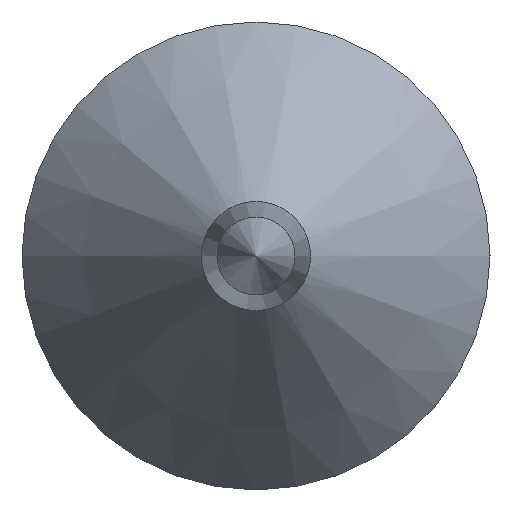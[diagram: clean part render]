
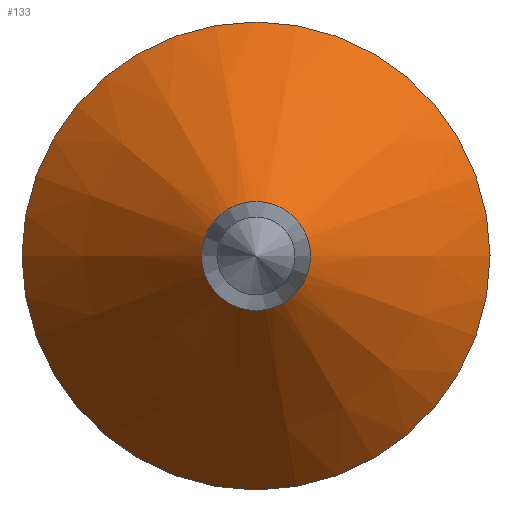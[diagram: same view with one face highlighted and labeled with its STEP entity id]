
A CAD part, left-side view. The second image highlights one B-rep face of the part: STEP entity #133.
In plain terms, the highlighted conical face has half-angle 37.476 degrees and reference radius 0.7 mm.
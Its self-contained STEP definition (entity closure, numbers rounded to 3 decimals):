
#66 = CONICAL_SURFACE('',#67,0.5,0.067);
#67 = AXIS2_PLACEMENT_3D('',#68,#69,#70);
#68 = CARTESIAN_POINT('',(0.,0.,0.));
#69 = DIRECTION('',(1.,0.,0.));
#70 = DIRECTION('',(-0.,1.,0.));
#84 = VERTEX_POINT('',#85);
#85 = CARTESIAN_POINT('',(3.,0.7,0.));
#106 = EDGE_CURVE('',#84,#84,#107,.T.);
#107 = SURFACE_CURVE('',#108,(#113,#120),.PCURVE_S1.);
#108 = CIRCLE('',#109,0.7);
#109 = AXIS2_PLACEMENT_3D('',#110,#111,#112);
#110 = CARTESIAN_POINT('',(3.,0.,0.));
#111 = DIRECTION('',(1.,0.,0.));
#112 = DIRECTION('',(-0.,1.,0.));
#113 = PCURVE('',#66,#114);
#114 = DEFINITIONAL_REPRESENTATION('',(#115),#119);
#115 = LINE('',#116,#117);
#116 = CARTESIAN_POINT('',(0.,3.));
#117 = VECTOR('',#118,1.);
#118 = DIRECTION('',(1.,0.));
#119 = ( GEOMETRIC_REPRESENTATION_CONTEXT(2) 
PARAMETRIC_REPRESENTATION_CONTEXT() REPRESENTATION_CONTEXT('2D SPACE',''
  ) );
#120 = PCURVE('',#121,#126);
#121 = CONICAL_SURFACE('',#122,0.7,0.654);
#122 = AXIS2_PLACEMENT_3D('',#123,#124,#125);
#123 = CARTESIAN_POINT('',(3.,0.,0.));
#124 = DIRECTION('',(1.,0.,0.));
#125 = DIRECTION('',(-0.,1.,0.));
#126 = DEFINITIONAL_REPRESENTATION('',(#127),#131);
#127 = LINE('',#128,#129);
#128 = CARTESIAN_POINT('',(0.,0.));
#129 = VECTOR('',#130,1.);
#130 = DIRECTION('',(1.,0.));
#131 = ( GEOMETRIC_REPRESENTATION_CONTEXT(2) 
PARAMETRIC_REPRESENTATION_CONTEXT() REPRESENTATION_CONTEXT('2D SPACE',''
  ) );
#133 = ADVANCED_FACE('',(#134),#121,.T.);
#134 = FACE_BOUND('',#135,.T.);
#135 = EDGE_LOOP('',(#136,#137,#160,#187));
#136 = ORIENTED_EDGE('',*,*,#106,.T.);
#137 = ORIENTED_EDGE('',*,*,#138,.T.);
#138 = EDGE_CURVE('',#84,#139,#141,.T.);
#139 = VERTEX_POINT('',#140);
#140 = CARTESIAN_POINT('',(6.,3.,0.));
#141 = SEAM_CURVE('',#142,(#146,#153),.PCURVE_S1.);
#142 = LINE('',#143,#144);
#143 = CARTESIAN_POINT('',(3.,0.7,0.));
#144 = VECTOR('',#145,1.);
#145 = DIRECTION('',(0.794,0.608,0.));
#146 = PCURVE('',#121,#147);
#147 = DEFINITIONAL_REPRESENTATION('',(#148),#152);
#148 = LINE('',#149,#150);
#149 = CARTESIAN_POINT('',(0.,0.));
#150 = VECTOR('',#151,1.);
#151 = DIRECTION('',(0.,1.));
#152 = ( GEOMETRIC_REPRESENTATION_CONTEXT(2) 
PARAMETRIC_REPRESENTATION_CONTEXT() REPRESENTATION_CONTEXT('2D SPACE',''
  ) );
#153 = PCURVE('',#121,#154);
#154 = DEFINITIONAL_REPRESENTATION('',(#155),#159);
#155 = LINE('',#156,#157);
#156 = CARTESIAN_POINT('',(6.283,0.));
#157 = VECTOR('',#158,1.);
#158 = DIRECTION('',(0.,1.));
#159 = ( GEOMETRIC_REPRESENTATION_CONTEXT(2) 
PARAMETRIC_REPRESENTATION_CONTEXT() REPRESENTATION_CONTEXT('2D SPACE',''
  ) );
#160 = ORIENTED_EDGE('',*,*,#161,.F.);
#161 = EDGE_CURVE('',#139,#139,#162,.T.);
#162 = SURFACE_CURVE('',#163,(#168,#175),.PCURVE_S1.);
#163 = CIRCLE('',#164,3.);
#164 = AXIS2_PLACEMENT_3D('',#165,#166,#167);
#165 = CARTESIAN_POINT('',(6.,0.,0.));
#166 = DIRECTION('',(1.,0.,0.));
#167 = DIRECTION('',(-0.,1.,0.));
#168 = PCURVE('',#121,#169);
#169 = DEFINITIONAL_REPRESENTATION('',(#170),#174);
#170 = LINE('',#171,#172);
#171 = CARTESIAN_POINT('',(0.,3.));
#172 = VECTOR('',#173,1.);
#173 = DIRECTION('',(1.,0.));
#174 = ( GEOMETRIC_REPRESENTATION_CONTEXT(2) 
PARAMETRIC_REPRESENTATION_CONTEXT() REPRESENTATION_CONTEXT('2D SPACE',''
  ) );
#175 = PCURVE('',#176,#181);
#176 = CYLINDRICAL_SURFACE('',#177,3.);
#177 = AXIS2_PLACEMENT_3D('',#178,#179,#180);
#178 = CARTESIAN_POINT('',(6.,0.,0.));
#179 = DIRECTION('',(1.,0.,0.));
#180 = DIRECTION('',(-0.,1.,0.));
#181 = DEFINITIONAL_REPRESENTATION('',(#182),#186);
#182 = LINE('',#183,#184);
#183 = CARTESIAN_POINT('',(0.,0.));
#184 = VECTOR('',#185,1.);
#185 = DIRECTION('',(1.,0.));
#186 = ( GEOMETRIC_REPRESENTATION_CONTEXT(2) 
PARAMETRIC_REPRESENTATION_CONTEXT() REPRESENTATION_CONTEXT('2D SPACE',''
  ) );
#187 = ORIENTED_EDGE('',*,*,#138,.F.);
